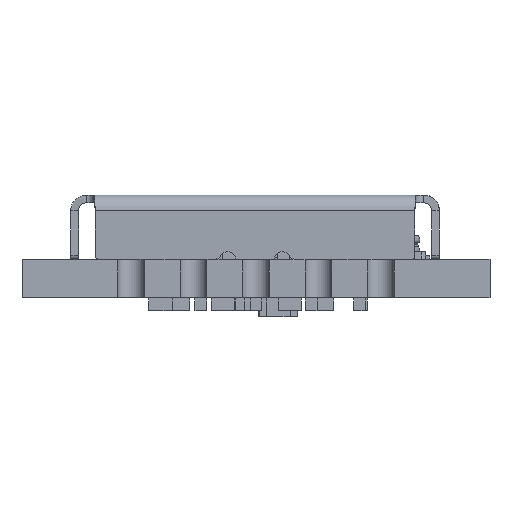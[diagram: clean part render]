
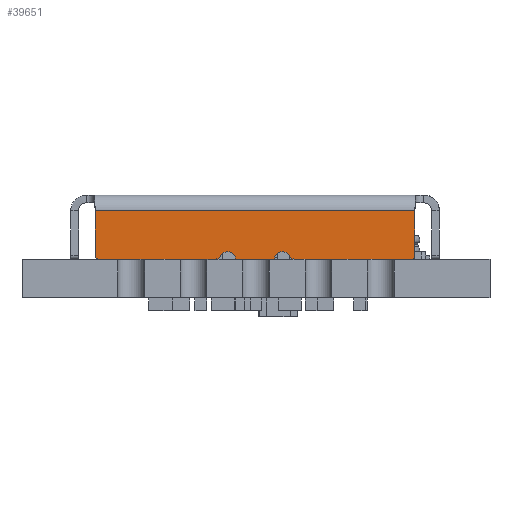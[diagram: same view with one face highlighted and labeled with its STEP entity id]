
A CAD part, front view. The second image highlights one B-rep face of the part: STEP entity #39651.
In plain terms, the highlighted planar face has unit normal (0, -1, 0).
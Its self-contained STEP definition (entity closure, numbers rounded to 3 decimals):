
#420 = ORIENTED_EDGE ( 'NONE', *, *, #38130, .T. ) ;
#426 = AXIS2_PLACEMENT_3D ( 'NONE', #35831, #8929, #19340 ) ;
#765 = ORIENTED_EDGE ( 'NONE', *, *, #35278, .T. ) ;
#847 = EDGE_CURVE ( 'NONE', #5692, #23470, #28903, .T. ) ;
#981 = LINE ( 'NONE', #27632, #36081 ) ;
#1057 = ORIENTED_EDGE ( 'NONE', *, *, #23935, .F. ) ;
#1446 = EDGE_CURVE ( 'NONE', #37284, #36283, #2777, .T. ) ;
#2075 = ORIENTED_EDGE ( 'NONE', *, *, #24499, .F. ) ;
#2638 = AXIS2_PLACEMENT_3D ( 'NONE', #40717, #26986, #30113 ) ;
#2777 = LINE ( 'NONE', #27173, #35231 ) ;
#3504 = CARTESIAN_POINT ( 'NONE',  ( 4.724, 2.633, 12.402 ) ) ;
#3916 = VECTOR ( 'NONE', #10357, 1000. ) ;
#4251 = CIRCLE ( 'NONE', #41816, 0.2 ) ;
#4305 = CARTESIAN_POINT ( 'NONE',  ( 3.178, 2.633, 13.402 ) ) ;
#4324 = CARTESIAN_POINT ( 'NONE',  ( 0.123, 2.633, 13.302 ) ) ;
#4361 = CARTESIAN_POINT ( 'NONE',  ( 8.325, 2.633, 14.852 ) ) ;
#5125 = ORIENTED_EDGE ( 'NONE', *, *, #1446, .T. ) ;
#5569 = PLANE ( 'NONE',  #25098 ) ;
#5692 = VERTEX_POINT ( 'NONE', #32194 ) ;
#6892 = FACE_OUTER_BOUND ( 'NONE', #37353, .T. ) ;
#7614 = VERTEX_POINT ( 'NONE', #4324 ) ;
#7985 = DIRECTION ( 'NONE',  ( 0., 1., 0. ) ) ;
#8383 = DIRECTION ( 'NONE',  ( 0., 0., -1. ) ) ;
#8564 = CARTESIAN_POINT ( 'NONE',  ( 3.351, 2.633, 13.302 ) ) ;
#8709 = CIRCLE ( 'NONE', #41047, 0.1 ) ;
#8929 = DIRECTION ( 'NONE',  ( 0., 1., 0. ) ) ;
#8961 = CARTESIAN_POINT ( 'NONE',  ( 8.225, 2.633, 13.202 ) ) ;
#9064 = CARTESIAN_POINT ( 'NONE',  ( -0.501, 2.633, 13.202 ) ) ;
#9098 = CIRCLE ( 'NONE', #33204, 0.2 ) ;
#9219 = DIRECTION ( 'NONE',  ( 0., 0., -1. ) ) ;
#9236 = ORIENTED_EDGE ( 'NONE', *, *, #10387, .F. ) ;
#9284 = DIRECTION ( 'NONE',  ( -1., 0., 0. ) ) ;
#10232 = ORIENTED_EDGE ( 'NONE', *, *, #11324, .F. ) ;
#10357 = DIRECTION ( 'NONE',  ( 0., 0., -1. ) ) ;
#10387 = EDGE_CURVE ( 'NONE', #25295, #39193, #22988, .T. ) ;
#10421 = CARTESIAN_POINT ( 'NONE',  ( 5.27, 2.633, 13.202 ) ) ;
#11210 = LINE ( 'NONE', #4361, #30841 ) ;
#11217 = DIRECTION ( 'NONE',  ( 0., 0., 1. ) ) ;
#11324 = EDGE_CURVE ( 'NONE', #44021, #7614, #27060, .T. ) ;
#12003 = CARTESIAN_POINT ( 'NONE',  ( 0.123, 2.633, 14.852 ) ) ;
#12384 = CARTESIAN_POINT ( 'NONE',  ( 4.624, 2.633, 12.502 ) ) ;
#12766 = ORIENTED_EDGE ( 'NONE', *, *, #33839, .F. ) ;
#14474 = CARTESIAN_POINT ( 'NONE',  ( 3.178, 2.633, 13.202 ) ) ;
#15062 = VERTEX_POINT ( 'NONE', #10421 ) ;
#16182 = CARTESIAN_POINT ( 'NONE',  ( 8.325, 2.633, 13.302 ) ) ;
#17503 = ORIENTED_EDGE ( 'NONE', *, *, #28382, .T. ) ;
#17839 = ORIENTED_EDGE ( 'NONE', *, *, #32119, .T. ) ;
#17850 = CIRCLE ( 'NONE', #18975, 0.1 ) ;
#18225 = EDGE_CURVE ( 'NONE', #23470, #36283, #8709, .T. ) ;
#18860 = DIRECTION ( 'NONE',  ( 1., 0., 0. ) ) ;
#18975 = AXIS2_PLACEMENT_3D ( 'NONE', #31593, #41869, #21516 ) ;
#19340 = DIRECTION ( 'NONE',  ( 1., 0., 0. ) ) ;
#19374 = ORIENTED_EDGE ( 'NONE', *, *, #26320, .T. ) ;
#20016 = DIRECTION ( 'NONE',  ( 1., 0., 0. ) ) ;
#20194 = VERTEX_POINT ( 'NONE', #24960 ) ;
#20289 = AXIS2_PLACEMENT_3D ( 'NONE', #29938, #36782, #20016 ) ;
#20999 = DIRECTION ( 'NONE',  ( 0., 0., 1. ) ) ;
#21098 = VERTEX_POINT ( 'NONE', #14474 ) ;
#21516 = DIRECTION ( 'NONE',  ( 0., 0., 1. ) ) ;
#21894 = VECTOR ( 'NONE', #25734, 1000. ) ;
#22351 = DIRECTION ( 'NONE',  ( 1., 0., 0. ) ) ;
#22988 = LINE ( 'NONE', #35705, #21894 ) ;
#23343 = EDGE_CURVE ( 'NONE', #26688, #25348, #39839, .T. ) ;
#23470 = VERTEX_POINT ( 'NONE', #35708 ) ;
#23567 = VECTOR ( 'NONE', #22351, 1000. ) ;
#23863 = DIRECTION ( 'NONE',  ( 1., 0., 0. ) ) ;
#23935 = EDGE_CURVE ( 'NONE', #40392, #21098, #4251, .T. ) ;
#24499 = EDGE_CURVE ( 'NONE', #20194, #24895, #981, .T. ) ;
#24663 = ORIENTED_EDGE ( 'NONE', *, *, #18225, .F. ) ;
#24779 = CIRCLE ( 'NONE', #426, 0.2 ) ;
#24895 = VERTEX_POINT ( 'NONE', #30585 ) ;
#24960 = CARTESIAN_POINT ( 'NONE',  ( 3.724, 2.633, 12.502 ) ) ;
#25025 = VECTOR ( 'NONE', #18860, 1000. ) ;
#25098 = AXIS2_PLACEMENT_3D ( 'NONE', #39326, #25782, #9284 ) ;
#25277 = VECTOR ( 'NONE', #8383, 1000. ) ;
#25295 = VERTEX_POINT ( 'NONE', #43432 ) ;
#25348 = VERTEX_POINT ( 'NONE', #8961 ) ;
#25717 = CARTESIAN_POINT ( 'NONE',  ( 4.624, 2.633, 12.402 ) ) ;
#25734 = DIRECTION ( 'NONE',  ( 1., 0., 0. ) ) ;
#25782 = DIRECTION ( 'NONE',  ( 0., 1., 0. ) ) ;
#26139 = CARTESIAN_POINT ( 'NONE',  ( 4.924, 2.633, 13.202 ) ) ;
#26320 = EDGE_CURVE ( 'NONE', #25295, #7614, #29547, .T. ) ;
#26688 = VERTEX_POINT ( 'NONE', #16182 ) ;
#26986 = DIRECTION ( 'NONE',  ( 0., 1., 0. ) ) ;
#27060 = CIRCLE ( 'NONE', #20289, 0.1 ) ;
#27173 = CARTESIAN_POINT ( 'NONE',  ( -1.776, 2.633, 12.402 ) ) ;
#27632 = CARTESIAN_POINT ( 'NONE',  ( 3.724, 2.633, 12.402 ) ) ;
#28382 = EDGE_CURVE ( 'NONE', #15062, #25348, #29789, .T. ) ;
#28903 = LINE ( 'NONE', #3504, #3916 ) ;
#29282 = DIRECTION ( 'NONE',  ( 0., 1., 0. ) ) ;
#29547 = LINE ( 'NONE', #12003, #25277 ) ;
#29789 = LINE ( 'NONE', #9064, #25025 ) ;
#29829 = CARTESIAN_POINT ( 'NONE',  ( 8.325, 2.633, 14.452 ) ) ;
#29938 = CARTESIAN_POINT ( 'NONE',  ( 0.223, 2.633, 13.302 ) ) ;
#30113 = DIRECTION ( 'NONE',  ( 1., 0., 0. ) ) ;
#30585 = CARTESIAN_POINT ( 'NONE',  ( 3.724, 2.633, 13.202 ) ) ;
#30758 = DIRECTION ( 'NONE',  ( 1., 0., 0. ) ) ;
#30841 = VECTOR ( 'NONE', #11217, 1000. ) ;
#31550 = CARTESIAN_POINT ( 'NONE',  ( 8.225, 2.633, 13.302 ) ) ;
#31593 = CARTESIAN_POINT ( 'NONE',  ( 3.824, 2.633, 12.502 ) ) ;
#31609 = ORIENTED_EDGE ( 'NONE', *, *, #847, .F. ) ;
#32119 = EDGE_CURVE ( 'NONE', #44021, #21098, #43762, .T. ) ;
#32194 = CARTESIAN_POINT ( 'NONE',  ( 4.724, 2.633, 13.202 ) ) ;
#32419 = CARTESIAN_POINT ( 'NONE',  ( -0.501, 2.633, 13.202 ) ) ;
#32451 = ORIENTED_EDGE ( 'NONE', *, *, #43892, .F. ) ;
#33204 = AXIS2_PLACEMENT_3D ( 'NONE', #26139, #40122, #43106 ) ;
#33839 = EDGE_CURVE ( 'NONE', #15062, #35111, #41985, .T. ) ;
#34677 = CARTESIAN_POINT ( 'NONE',  ( 3.824, 2.633, 12.402 ) ) ;
#34759 = DIRECTION ( 'NONE',  ( 1., 0., 0. ) ) ;
#35111 = VERTEX_POINT ( 'NONE', #41368 ) ;
#35231 = VECTOR ( 'NONE', #30758, 1000. ) ;
#35278 = EDGE_CURVE ( 'NONE', #40392, #24895, #24779, .T. ) ;
#35460 = ORIENTED_EDGE ( 'NONE', *, *, #23343, .F. ) ;
#35705 = CARTESIAN_POINT ( 'NONE',  ( -1.776, 2.633, 14.452 ) ) ;
#35708 = CARTESIAN_POINT ( 'NONE',  ( 4.724, 2.633, 12.502 ) ) ;
#35831 = CARTESIAN_POINT ( 'NONE',  ( 3.524, 2.633, 13.202 ) ) ;
#36081 = VECTOR ( 'NONE', #20999, 1000. ) ;
#36200 = CARTESIAN_POINT ( 'NONE',  ( 0.223, 2.633, 13.202 ) ) ;
#36283 = VERTEX_POINT ( 'NONE', #25717 ) ;
#36782 = DIRECTION ( 'NONE',  ( 0., 1., 0. ) ) ;
#37284 = VERTEX_POINT ( 'NONE', #34677 ) ;
#37353 = EDGE_LOOP ( 'NONE', ( #10232, #17839, #1057, #765, #2075, #32451, #5125, #24663, #31609, #420, #12766, #17503, #35460, #37708, #9236, #19374 ) ) ;
#37513 = AXIS2_PLACEMENT_3D ( 'NONE', #31550, #40808, #23863 ) ;
#37708 = ORIENTED_EDGE ( 'NONE', *, *, #38469, .T. ) ;
#38130 = EDGE_CURVE ( 'NONE', #5692, #35111, #9098, .T. ) ;
#38469 = EDGE_CURVE ( 'NONE', #26688, #39193, #11210, .T. ) ;
#39193 = VERTEX_POINT ( 'NONE', #29829 ) ;
#39326 = CARTESIAN_POINT ( 'NONE',  ( -0.501, 2.633, 14.852 ) ) ;
#39651 = ADVANCED_FACE ( 'NONE', ( #6892 ), #5569, .F. ) ;
#39839 = CIRCLE ( 'NONE', #37513, 0.1 ) ;
#40122 = DIRECTION ( 'NONE',  ( 0., 1., 0. ) ) ;
#40392 = VERTEX_POINT ( 'NONE', #8564 ) ;
#40717 = CARTESIAN_POINT ( 'NONE',  ( 5.27, 2.633, 13.402 ) ) ;
#40808 = DIRECTION ( 'NONE',  ( 0., 1., 0. ) ) ;
#41047 = AXIS2_PLACEMENT_3D ( 'NONE', #12384, #29282, #9219 ) ;
#41368 = CARTESIAN_POINT ( 'NONE',  ( 5.097, 2.633, 13.302 ) ) ;
#41816 = AXIS2_PLACEMENT_3D ( 'NONE', #4305, #7985, #34759 ) ;
#41869 = DIRECTION ( 'NONE',  ( 0., 1., 0. ) ) ;
#41985 = CIRCLE ( 'NONE', #2638, 0.2 ) ;
#43106 = DIRECTION ( 'NONE',  ( 1., 0., 0. ) ) ;
#43432 = CARTESIAN_POINT ( 'NONE',  ( 0.123, 2.633, 14.452 ) ) ;
#43762 = LINE ( 'NONE', #32419, #23567 ) ;
#43892 = EDGE_CURVE ( 'NONE', #37284, #20194, #17850, .T. ) ;
#44021 = VERTEX_POINT ( 'NONE', #36200 ) ;
